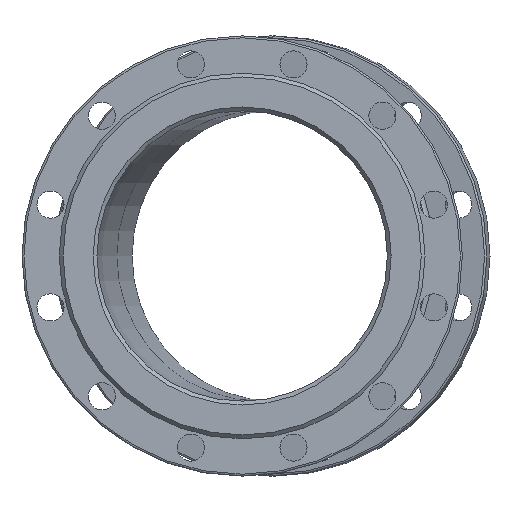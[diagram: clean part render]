
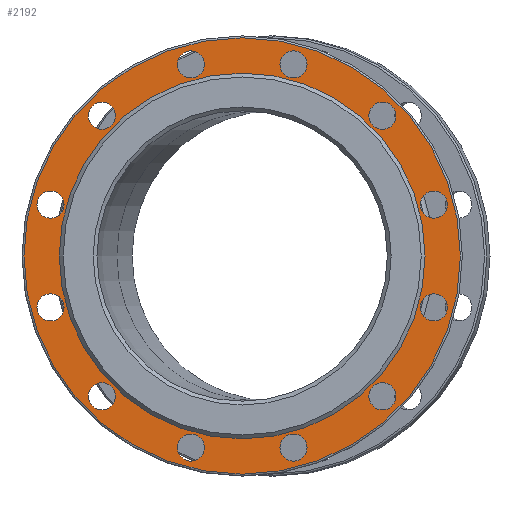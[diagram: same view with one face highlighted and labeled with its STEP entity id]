
A CAD part, left-side view. The second image highlights one B-rep face of the part: STEP entity #2192.
In plain terms, the highlighted planar face has unit normal (-1, 0, 0).
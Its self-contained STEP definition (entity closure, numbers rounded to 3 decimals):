
#2 = EDGE_LOOP ( 'NONE', ( #1114 ) ) ;
#37 = ORIENTED_EDGE ( 'NONE', *, *, #1898, .T. ) ;
#52 = CARTESIAN_POINT ( 'NONE',  ( 4., -198.015, -67.058 ) ) ;
#54 = CARTESIAN_POINT ( 'NONE',  ( 4., 144.957, -158.957 ) ) ;
#73 = VERTEX_POINT ( 'NONE', #2488 ) ;
#113 = CIRCLE ( 'NONE', #2653, 14. ) ;
#123 = CARTESIAN_POINT ( 'NONE',  ( 4., -198.015, 39.058 ) ) ;
#132 = CARTESIAN_POINT ( 'NONE',  ( 4., -53.058, -198.015 ) ) ;
#152 = AXIS2_PLACEMENT_3D ( 'NONE', #1928, #1957, #1521 ) ;
#166 = DIRECTION ( 'NONE',  ( 0., 0., -1. ) ) ;
#180 = ORIENTED_EDGE ( 'NONE', *, *, #583, .F. ) ;
#195 = ORIENTED_EDGE ( 'NONE', *, *, #2740, .F. ) ;
#224 = CARTESIAN_POINT ( 'NONE',  ( 4., 144.957, 144.957 ) ) ;
#232 = EDGE_LOOP ( 'NONE', ( #2393 ) ) ;
#283 = CARTESIAN_POINT ( 'NONE',  ( 4., -198.015, -53.058 ) ) ;
#317 = VERTEX_POINT ( 'NONE', #2516 ) ;
#344 = EDGE_CURVE ( 'NONE', #764, #764, #2424, .T. ) ;
#348 = AXIS2_PLACEMENT_3D ( 'NONE', #283, #2108, #1601 ) ;
#356 = DIRECTION ( 'NONE',  ( 0., 0., -1. ) ) ;
#366 = CARTESIAN_POINT ( 'NONE',  ( 4., 53.058, 198.015 ) ) ;
#434 = CIRCLE ( 'NONE', #1904, 14. ) ;
#473 = CARTESIAN_POINT ( 'NONE',  ( 4., 53.058, -198.015 ) ) ;
#480 = AXIS2_PLACEMENT_3D ( 'NONE', #2334, #969, #356 ) ;
#514 = CARTESIAN_POINT ( 'NONE',  ( 4., -144.957, -158.957 ) ) ;
#528 = CIRCLE ( 'NONE', #152, 14. ) ;
#532 = CIRCLE ( 'NONE', #1406, 14. ) ;
#544 = DIRECTION ( 'NONE',  ( 1., 0., 0. ) ) ;
#558 = FACE_BOUND ( 'NONE', #752, .T. ) ;
#562 = VERTEX_POINT ( 'NONE', #1829 ) ;
#569 = FACE_BOUND ( 'NONE', #2139, .T. ) ;
#583 = EDGE_CURVE ( 'NONE', #317, #317, #434, .T. ) ;
#585 = DIRECTION ( 'NONE',  ( 0., 0., -1. ) ) ;
#637 = EDGE_CURVE ( 'NONE', #73, #73, #2375, .T. ) ;
#649 = DIRECTION ( 'NONE',  ( -1., 0., 0. ) ) ;
#667 = AXIS2_PLACEMENT_3D ( 'NONE', #132, #768, #1624 ) ;
#688 = DIRECTION ( 'NONE',  ( -1., 0., 0. ) ) ;
#735 = VERTEX_POINT ( 'NONE', #1635 ) ;
#742 = CARTESIAN_POINT ( 'NONE',  ( 4., 0., -225.5 ) ) ;
#746 = CARTESIAN_POINT ( 'NONE',  ( 4., -53.058, -212.015 ) ) ;
#752 = EDGE_LOOP ( 'NONE', ( #773 ) ) ;
#764 = VERTEX_POINT ( 'NONE', #1155 ) ;
#768 = DIRECTION ( 'NONE',  ( -1., 0., 0. ) ) ;
#772 = FACE_BOUND ( 'NONE', #2634, .T. ) ;
#773 = ORIENTED_EDGE ( 'NONE', *, *, #1752, .F. ) ;
#835 = EDGE_CURVE ( 'NONE', #1833, #1833, #1358, .T. ) ;
#884 = EDGE_CURVE ( 'NONE', #2020, #2020, #113, .T. ) ;
#934 = CARTESIAN_POINT ( 'NONE',  ( 4., 144.957, 130.957 ) ) ;
#958 = VERTEX_POINT ( 'NONE', #123 ) ;
#969 = DIRECTION ( 'NONE',  ( -1., 0., 0. ) ) ;
#971 = ORIENTED_EDGE ( 'NONE', *, *, #1027, .F. ) ;
#979 = VERTEX_POINT ( 'NONE', #1857 ) ;
#992 = EDGE_LOOP ( 'NONE', ( #195 ) ) ;
#1006 = EDGE_CURVE ( 'NONE', #735, #735, #1459, .T. ) ;
#1027 = EDGE_CURVE ( 'NONE', #2682, #2682, #1036, .T. ) ;
#1030 = ORIENTED_EDGE ( 'NONE', *, *, #2476, .F. ) ;
#1036 = CIRCLE ( 'NONE', #1413, 14. ) ;
#1067 = DIRECTION ( 'NONE',  ( -1., 0., 0. ) ) ;
#1072 = DIRECTION ( 'NONE',  ( 0., 0., -1. ) ) ;
#1077 = CIRCLE ( 'NONE', #2619, 189. ) ;
#1078 = AXIS2_PLACEMENT_3D ( 'NONE', #2303, #544, #585 ) ;
#1082 = CIRCLE ( 'NONE', #1172, 14. ) ;
#1096 = DIRECTION ( 'NONE',  ( -1., 0., 0. ) ) ;
#1108 = DIRECTION ( 'NONE',  ( 0., 0., -1. ) ) ;
#1114 = ORIENTED_EDGE ( 'NONE', *, *, #2632, .F. ) ;
#1127 = AXIS2_PLACEMENT_3D ( 'NONE', #2193, #649, #1570 ) ;
#1138 = EDGE_LOOP ( 'NONE', ( #180 ) ) ;
#1155 = CARTESIAN_POINT ( 'NONE',  ( 4., 198.015, -67.058 ) ) ;
#1172 = AXIS2_PLACEMENT_3D ( 'NONE', #1245, #1256, #166 ) ;
#1190 = FACE_BOUND ( 'NONE', #1138, .T. ) ;
#1221 = CIRCLE ( 'NONE', #348, 14. ) ;
#1245 = CARTESIAN_POINT ( 'NONE',  ( 4., -198.015, 53.058 ) ) ;
#1256 = DIRECTION ( 'NONE',  ( -1., 0., 0. ) ) ;
#1326 = EDGE_CURVE ( 'NONE', #979, #979, #1077, .T. ) ;
#1358 = CIRCLE ( 'NONE', #667, 14. ) ;
#1404 = CIRCLE ( 'NONE', #2373, 225.5 ) ;
#1406 = AXIS2_PLACEMENT_3D ( 'NONE', #2824, #2170, #1072 ) ;
#1413 = AXIS2_PLACEMENT_3D ( 'NONE', #224, #2467, #1108 ) ;
#1423 = CARTESIAN_POINT ( 'NONE',  ( 4., 198.015, -53.058 ) ) ;
#1436 = DIRECTION ( 'NONE',  ( 0., 0., -1. ) ) ;
#1459 = CIRCLE ( 'NONE', #2284, 14. ) ;
#1471 = EDGE_LOOP ( 'NONE', ( #37 ) ) ;
#1516 = ORIENTED_EDGE ( 'NONE', *, *, #344, .F. ) ;
#1521 = DIRECTION ( 'NONE',  ( 0., 0., -1. ) ) ;
#1570 = DIRECTION ( 'NONE',  ( 0., 0., -1. ) ) ;
#1586 = CARTESIAN_POINT ( 'NONE',  ( 4., 0., 0. ) ) ;
#1601 = DIRECTION ( 'NONE',  ( 0., 0., -1. ) ) ;
#1616 = ORIENTED_EDGE ( 'NONE', *, *, #637, .F. ) ;
#1624 = DIRECTION ( 'NONE',  ( 0., 0., -1. ) ) ;
#1635 = CARTESIAN_POINT ( 'NONE',  ( 4., 53.058, -212.015 ) ) ;
#1658 = VERTEX_POINT ( 'NONE', #514 ) ;
#1680 = FACE_BOUND ( 'NONE', #2431, .T. ) ;
#1723 = EDGE_LOOP ( 'NONE', ( #1030 ) ) ;
#1752 = EDGE_CURVE ( 'NONE', #562, #562, #528, .T. ) ;
#1763 = ORIENTED_EDGE ( 'NONE', *, *, #2201, .F. ) ;
#1765 = DIRECTION ( 'NONE',  ( 0., 0., -1. ) ) ;
#1771 = ORIENTED_EDGE ( 'NONE', *, *, #835, .F. ) ;
#1786 = VERTEX_POINT ( 'NONE', #52 ) ;
#1800 = EDGE_LOOP ( 'NONE', ( #2191 ) ) ;
#1817 = EDGE_LOOP ( 'NONE', ( #1763 ) ) ;
#1829 = CARTESIAN_POINT ( 'NONE',  ( 4., -53.058, 184.015 ) ) ;
#1833 = VERTEX_POINT ( 'NONE', #746 ) ;
#1857 = CARTESIAN_POINT ( 'NONE',  ( 4., 0., 189. ) ) ;
#1866 = FACE_BOUND ( 'NONE', #1800, .T. ) ;
#1879 = DIRECTION ( 'NONE',  ( -1., 0., 0. ) ) ;
#1898 = EDGE_CURVE ( 'NONE', #2321, #2321, #1404, .T. ) ;
#1904 = AXIS2_PLACEMENT_3D ( 'NONE', #366, #1067, #2830 ) ;
#1928 = CARTESIAN_POINT ( 'NONE',  ( 4., -53.058, 198.015 ) ) ;
#1930 = CARTESIAN_POINT ( 'NONE',  ( 4., 0., 0. ) ) ;
#1957 = DIRECTION ( 'NONE',  ( -1., 0., 0. ) ) ;
#1990 = EDGE_LOOP ( 'NONE', ( #1516 ) ) ;
#2020 = VERTEX_POINT ( 'NONE', #54 ) ;
#2067 = FACE_BOUND ( 'NONE', #1817, .T. ) ;
#2081 = FACE_BOUND ( 'NONE', #232, .T. ) ;
#2083 = VERTEX_POINT ( 'NONE', #2262 ) ;
#2094 = DIRECTION ( 'NONE',  ( 0., 0., -1. ) ) ;
#2108 = DIRECTION ( 'NONE',  ( -1., 0., 0. ) ) ;
#2111 = FACE_BOUND ( 'NONE', #2525, .T. ) ;
#2139 = EDGE_LOOP ( 'NONE', ( #1616 ) ) ;
#2170 = DIRECTION ( 'NONE',  ( -1., 0., 0. ) ) ;
#2191 = ORIENTED_EDGE ( 'NONE', *, *, #884, .F. ) ;
#2192 = ADVANCED_FACE ( 'NONE', ( #2718, #2081, #1190, #1680, #569, #2731, #1866, #772, #2111, #2524, #2292, #2507, #2067, #558 ), #2570, .F. ) ;
#2193 = CARTESIAN_POINT ( 'NONE',  ( 4., 198.015, 53.058 ) ) ;
#2197 = DIRECTION ( 'NONE',  ( -1., 0., 0. ) ) ;
#2201 = EDGE_CURVE ( 'NONE', #2083, #2083, #2420, .T. ) ;
#2202 = DIRECTION ( 'NONE',  ( 0., 0., -1. ) ) ;
#2262 = CARTESIAN_POINT ( 'NONE',  ( 4., -144.957, 130.957 ) ) ;
#2284 = AXIS2_PLACEMENT_3D ( 'NONE', #473, #688, #2202 ) ;
#2292 = FACE_BOUND ( 'NONE', #992, .T. ) ;
#2303 = CARTESIAN_POINT ( 'NONE',  ( 4., 189., 0. ) ) ;
#2321 = VERTEX_POINT ( 'NONE', #742 ) ;
#2334 = CARTESIAN_POINT ( 'NONE',  ( 4., -144.957, 144.957 ) ) ;
#2373 = AXIS2_PLACEMENT_3D ( 'NONE', #1930, #2800, #2094 ) ;
#2375 = CIRCLE ( 'NONE', #1127, 14. ) ;
#2393 = ORIENTED_EDGE ( 'NONE', *, *, #1326, .F. ) ;
#2420 = CIRCLE ( 'NONE', #480, 14. ) ;
#2421 = DIRECTION ( 'NONE',  ( 0., 0., 1. ) ) ;
#2424 = CIRCLE ( 'NONE', #2651, 14. ) ;
#2431 = EDGE_LOOP ( 'NONE', ( #971 ) ) ;
#2465 = ORIENTED_EDGE ( 'NONE', *, *, #1006, .F. ) ;
#2467 = DIRECTION ( 'NONE',  ( -1., 0., 0. ) ) ;
#2476 = EDGE_CURVE ( 'NONE', #958, #958, #1082, .T. ) ;
#2488 = CARTESIAN_POINT ( 'NONE',  ( 4., 198.015, 39.058 ) ) ;
#2507 = FACE_BOUND ( 'NONE', #1723, .T. ) ;
#2516 = CARTESIAN_POINT ( 'NONE',  ( 4., 53.058, 184.015 ) ) ;
#2524 = FACE_BOUND ( 'NONE', #2, .T. ) ;
#2525 = EDGE_LOOP ( 'NONE', ( #1771 ) ) ;
#2570 = PLANE ( 'NONE',  #1078 ) ;
#2619 = AXIS2_PLACEMENT_3D ( 'NONE', #1586, #2197, #2421 ) ;
#2632 = EDGE_CURVE ( 'NONE', #1658, #1658, #532, .T. ) ;
#2634 = EDGE_LOOP ( 'NONE', ( #2465 ) ) ;
#2651 = AXIS2_PLACEMENT_3D ( 'NONE', #1423, #1879, #1436 ) ;
#2653 = AXIS2_PLACEMENT_3D ( 'NONE', #2855, #1096, #1765 ) ;
#2682 = VERTEX_POINT ( 'NONE', #934 ) ;
#2718 = FACE_OUTER_BOUND ( 'NONE', #1471, .T. ) ;
#2731 = FACE_BOUND ( 'NONE', #1990, .T. ) ;
#2740 = EDGE_CURVE ( 'NONE', #1786, #1786, #1221, .T. ) ;
#2800 = DIRECTION ( 'NONE',  ( -1., 0., 0. ) ) ;
#2824 = CARTESIAN_POINT ( 'NONE',  ( 4., -144.957, -144.957 ) ) ;
#2830 = DIRECTION ( 'NONE',  ( 0., 0., -1. ) ) ;
#2855 = CARTESIAN_POINT ( 'NONE',  ( 4., 144.957, -144.957 ) ) ;
